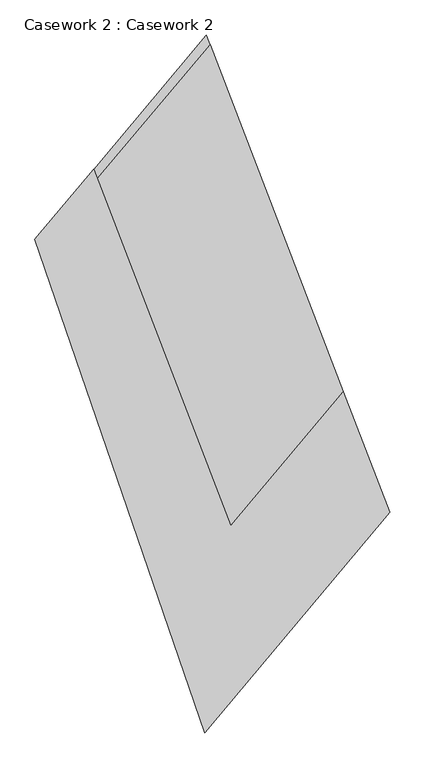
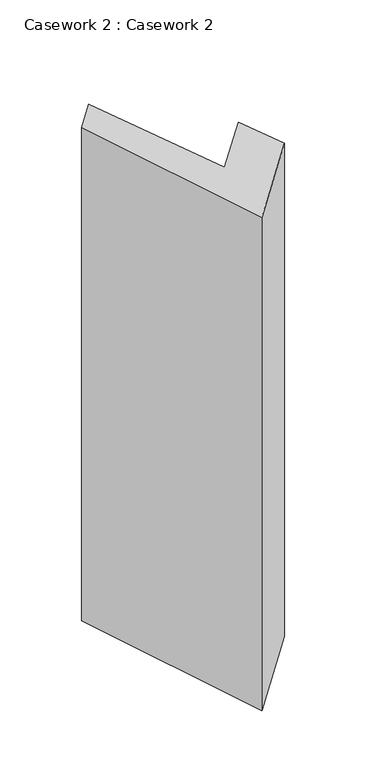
"""IFC4 building model written with IfcOpenShell, lengths in millimetres: furniture geometry, Casework 2 : Casework 2."""

from ifc_helpers import new_model, si_unit, frame, origin, place, context, project, spatial, polyline, outline, extrude, faceted_brep, source, transform, mapped, element, save


def casework_2_casework_2_b667cc68(model_context):
    return source(origin(), model_context, "Body", "SolidModel", [
        extrude(outline(polyline([(-14478.6303314, -2146.3097643), (-14022.9713578, -1603.2765456), (-13484.4283956, -3006.2289273), (-13940.0873692, -3549.262146), (-14478.6303314, -2146.3097643)])), frame((0.0, 0.0, -1260.0), z_axis=(0.0, 0.0, 1.0), x_axis=(1.0, 0.0, 0.0)), (0.0, 0.0, 1.0), 36.9862258),
        faceted_brep([(-14730.7047624, -2391.2560986, 3000.0), (-14044.1841105, -4385.0568438, 3000.0), (-13296.973424, -3494.5658239, 3000.0), (-13484.4283956, -3006.2289273, 3000.0), (-13940.0873692, -3549.262146, 3000.0), (-14493.2383306, -2108.2546253, 3000.0), (-13296.973424, -3494.5658239, -2310.9259957), (-14044.1841105, -4385.0568438, -2310.9259957), (-14730.7047624, -2391.2560986, -2310.9259957), (-14254.5198545, -1823.7610238, -2310.9259957), (-14037.579357, -1565.2214066, -2310.9259957), (-14037.579357, -1565.2214066, -1255.0), (-13484.4283956, -3006.2289273, -1255.0), (-14493.2383306, -2108.2546253, -1255.0), (-14254.5198545, -1823.7610238, -1255.0), (-13940.0873692, -3549.262146, -1255.0)], [[[0, 1, 2, 3, 4, 5]], [[6, 7, 8, 9, 10]], [[6, 10, 11, 12, 3, 2]], [[9, 8, 0, 5, 13, 14]], [[1, 0, 8, 7]], [[2, 1, 7, 6]], [[13, 15, 12, 11, 14]], [[15, 13, 5, 4]], [[12, 15, 4, 3]], [[10, 9, 14, 11]]]),
    ])


if __name__ == "__main__":
    model = new_model("IFC4")
    model_context = context("Model", 3, world=origin())
    ifc_project = project(units=[si_unit("LENGTHUNIT", "METRE", prefix="MILLI")], contexts=[model_context])
    site = spatial("IfcSite", under=ifc_project)
    building = spatial("IfcBuilding", under=site)
    placement = place(None, origin())
    casework_2_casework_2_shape = casework_2_casework_2_b667cc68(model_context)
    element("IfcFurniture", 1, ObjectType="Casework 2 : Casework 2", at=placement, inside=building, context=model_context, shape_type="MappedRepresentation", body=[
        mapped(casework_2_casework_2_shape, transform((0.0, 0.0, 0.0), x_axis=(1.0, 0.0, 0.0), y_axis=(0.0, 1.0, 0.0), z_axis=(0.0, 0.0, 1.0))),
    ])
    save(model, "model.ifc")
